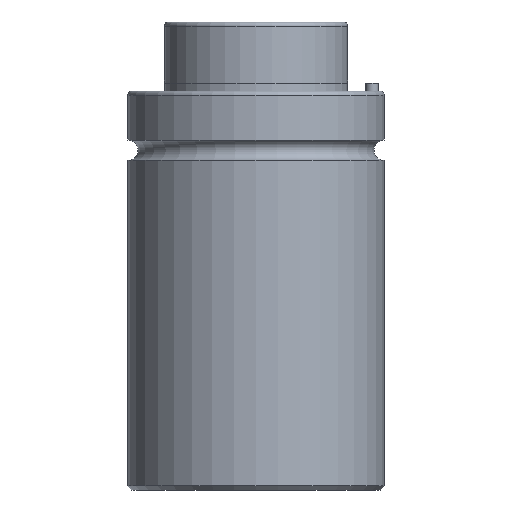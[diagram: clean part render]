
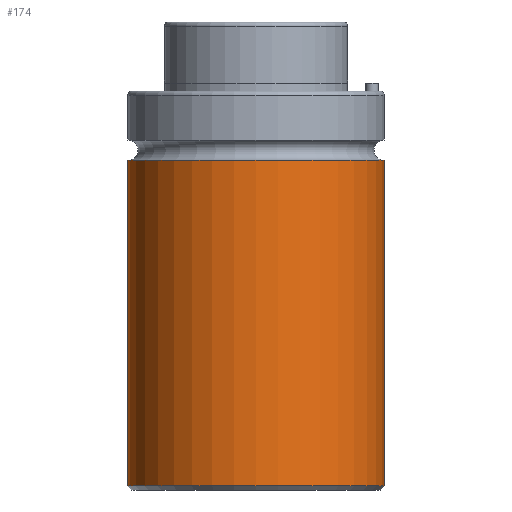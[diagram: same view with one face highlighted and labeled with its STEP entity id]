
A CAD part, front view. The second image highlights one B-rep face of the part: STEP entity #174.
In plain terms, the highlighted cylindrical face has radius 31.5 mm (diameter 63 mm), a partial arc.
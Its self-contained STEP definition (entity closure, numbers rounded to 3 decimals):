
#138=CYLINDRICAL_SURFACE('',#857,31.5);
#174=ADVANCED_FACE('',(#232),#138,.T.);
#232=FACE_OUTER_BOUND('',#279,.T.);
#279=EDGE_LOOP('',(#457,#458,#459,#460));
#344=CIRCLE('',#851,31.5);
#347=CIRCLE('',#856,31.5);
#457=ORIENTED_EDGE('',*,*,#677,.T.);
#458=ORIENTED_EDGE('',*,*,#678,.F.);
#459=ORIENTED_EDGE('',*,*,#679,.F.);
#460=ORIENTED_EDGE('',*,*,#674,.T.);
#598=VERTEX_POINT('',#1261);
#599=VERTEX_POINT('',#1263);
#600=VERTEX_POINT('',#1269);
#601=VERTEX_POINT('',#1271);
#674=EDGE_CURVE('',#599,#598,#344,.T.);
#677=EDGE_CURVE('',#598,#600,#745,.T.);
#678=EDGE_CURVE('',#601,#600,#347,.T.);
#679=EDGE_CURVE('',#599,#601,#746,.T.);
#745=LINE('',#1268,#781);
#746=LINE('',#1272,#782);
#781=VECTOR('',#1032,1.);
#782=VECTOR('',#1035,1.);
#851=AXIS2_PLACEMENT_3D('',#1262,#1022,#1023);
#856=AXIS2_PLACEMENT_3D('',#1270,#1033,#1034);
#857=AXIS2_PLACEMENT_3D('',#1273,#1036,#1037);
#1022=DIRECTION('',(0.,0.,-1.));
#1023=DIRECTION('',(0.,1.,0.));
#1032=DIRECTION('',(0.,0.,-1.));
#1033=DIRECTION('',(0.,0.,-1.));
#1034=DIRECTION('',(0.,1.,0.));
#1035=DIRECTION('',(0.,0.,-1.));
#1036=DIRECTION('',(0.,0.,-1.));
#1037=DIRECTION('',(0.,-1.,0.));
#1261=CARTESIAN_POINT('',(-31.5,0.,81.));
#1262=CARTESIAN_POINT('',(0.,0.,81.));
#1263=CARTESIAN_POINT('',(31.5,0.,81.));
#1268=CARTESIAN_POINT('',(-31.5,0.,81.));
#1269=CARTESIAN_POINT('',(-31.5,0.,1.));
#1270=CARTESIAN_POINT('',(0.,0.,1.));
#1271=CARTESIAN_POINT('',(31.5,0.,1.));
#1272=CARTESIAN_POINT('',(31.5,0.,81.));
#1273=CARTESIAN_POINT('',(0.,0.,81.));
